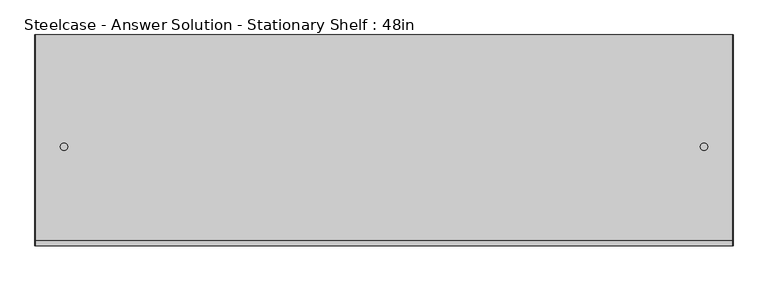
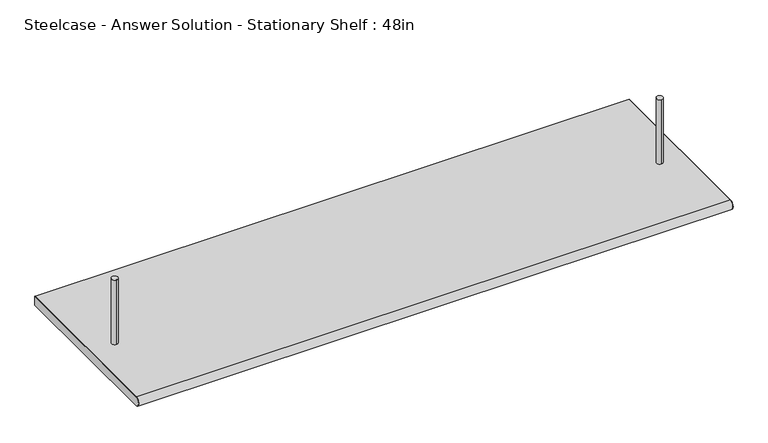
"""IFC4 building model written with IfcOpenShell, lengths in millimetres: furniture geometry, Steelcase - Answer Solution - Stationary Shelf : 48in."""

from ifc_helpers import new_model, si_unit, point, frame, frame_2d, origin, place, context, project, spatial, polyline, circle_curve, trimmed, segment, composite_curve, outline, extrude, source, transform, mapped, element, save


def steelcase_answer_solution_stationary_shelf_48in_d72ae939(model_context):
    return source(origin(), model_context, "Body", "SweptSolid", [
        extrude(outline(composite_curve([segment(trimmed(circle_curve(frame_2d((1168.4, -195.2625)), 6.35), [point((1168.4, -201.6125))], [point((1168.4, -188.9125))], False, "CARTESIAN"), True, "CONTINUOUS"), segment(trimmed(circle_curve(frame_2d((1168.4, -195.2625)), 6.35), [point((1168.4, -188.9125))], [point((1168.4, -201.6125))], False, "CARTESIAN"), True, "CONTINUOUS")], self_intersect=False)), frame((0.0, 0.0, 1136.6500242), z_axis=(0.0, 0.0, 1.0), x_axis=(1.0, 0.0, 0.0)), (0.0, 0.0, 1.0), 139.6999758),
        extrude(outline(composite_curve([segment(trimmed(circle_curve(frame_2d((50.8, -195.2625)), 6.35), [point((50.8, -201.6125))], [point((50.8, -188.9125))], False, "CARTESIAN"), True, "CONTINUOUS"), segment(trimmed(circle_curve(frame_2d((50.8, -195.2625)), 6.35), [point((50.8, -188.9125))], [point((50.8, -201.6125))], False, "CARTESIAN"), True, "CONTINUOUS")], self_intersect=False)), frame((0.0, 0.0, 1136.6500242), z_axis=(0.0, 0.0, 1.0), x_axis=(1.0, 0.0, 0.0)), (0.0, 0.0, 1.0), 139.6999758),
        extrude(outline(composite_curve([segment(polyline([(-358.7557809, 1136.6500242), (0.0, 1136.6500242), (0.0, 1117.6000242), (-358.7557809, 1117.6000242)]), True, "CONTINUOUS"), segment(trimmed(circle_curve(frame_2d((-358.7557809, 1127.1250242)), 9.525), [point((-358.7557809, 1117.6000242))], [point((-358.7557809, 1136.6500242))], False, "CARTESIAN"), True, "CONTINUOUS")], self_intersect=False)), frame((1218.999975, 0.0, 0.0), z_axis=(1.0, 0.0, 0.0), x_axis=(0.0, 1.0, 0.0)), (0.0, 0.0, 1.0), 0.200025),
        extrude(outline(composite_curve([segment(polyline([(-358.7557809, 1136.6500242), (0.0, 1136.6500242), (0.0, 1117.6000242), (-358.7557809, 1117.6000242)]), True, "CONTINUOUS"), segment(trimmed(circle_curve(frame_2d((-358.7557809, 1127.1250242)), 9.525), [point((-358.7557809, 1117.6000242))], [point((-358.7557809, 1136.6500242))], False, "CARTESIAN"), True, "CONTINUOUS")], self_intersect=False)), frame((0.0, 0.0, 0.0), z_axis=(1.0, 0.0, 0.0), x_axis=(0.0, 1.0, 0.0)), (0.0, 0.0, 1.0), 0.200025),
        extrude(outline(composite_curve([segment(polyline([(0.0, 1136.6500242), (0.0, 1117.6000242), (-358.7557809, 1117.6000242)]), True, "CONTINUOUS"), segment(trimmed(circle_curve(frame_2d((-358.7557809, 1127.1250242)), 9.525), [point((-358.7557809, 1117.6000242))], [point((-358.7557809, 1136.6500242))], False, "CARTESIAN"), True, "CONTINUOUS"), segment(polyline([(-358.7557809, 1136.6500242), (0.0, 1136.6500242)]), True, "CONTINUOUS")], self_intersect=False)), frame((0.200025, 0.0, 0.0), z_axis=(1.0, 0.0, 0.0), x_axis=(0.0, 1.0, 0.0)), (0.0, 0.0, 1.0), 1218.79995),
    ])


if __name__ == "__main__":
    model = new_model("IFC4")
    model_context = context("Model", 3, world=origin())
    ifc_project = project(units=[si_unit("LENGTHUNIT", "METRE", prefix="MILLI")], contexts=[model_context])
    site = spatial("IfcSite", under=ifc_project)
    building = spatial("IfcBuilding", under=site)
    placement = place(None, origin())
    steelcase_answer_solution_stationary_shelf_48in_shape = steelcase_answer_solution_stationary_shelf_48in_d72ae939(model_context)
    element("IfcFurniture", 1, ObjectType="Steelcase - Answer Solution - Stationary Shelf : 48in", at=placement, inside=building, context=model_context, shape_type="MappedRepresentation", body=[
        mapped(steelcase_answer_solution_stationary_shelf_48in_shape, transform((0.0, 0.0, 0.0), x_axis=(1.0, 0.0, 0.0), y_axis=(0.0, 1.0, 0.0), z_axis=(0.0, 0.0, 1.0))),
    ])
    save(model, "model.ifc")
